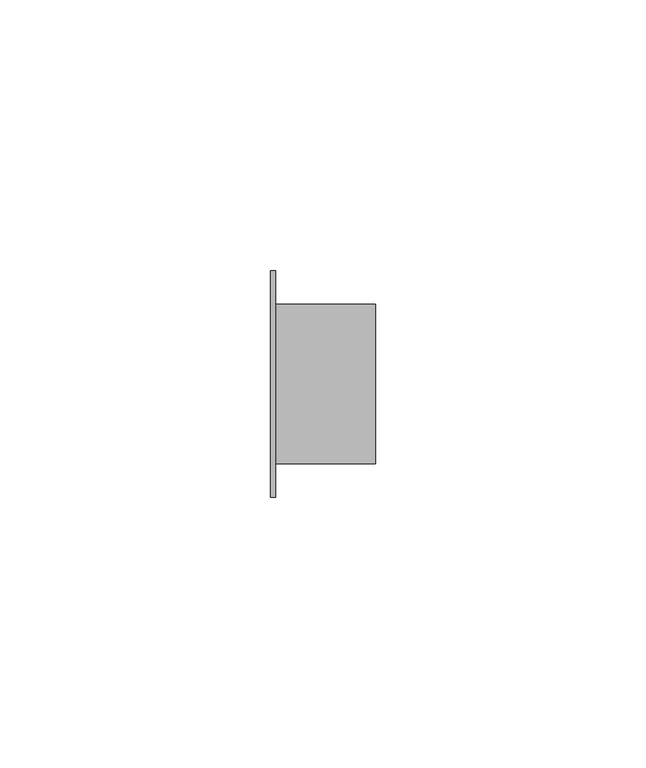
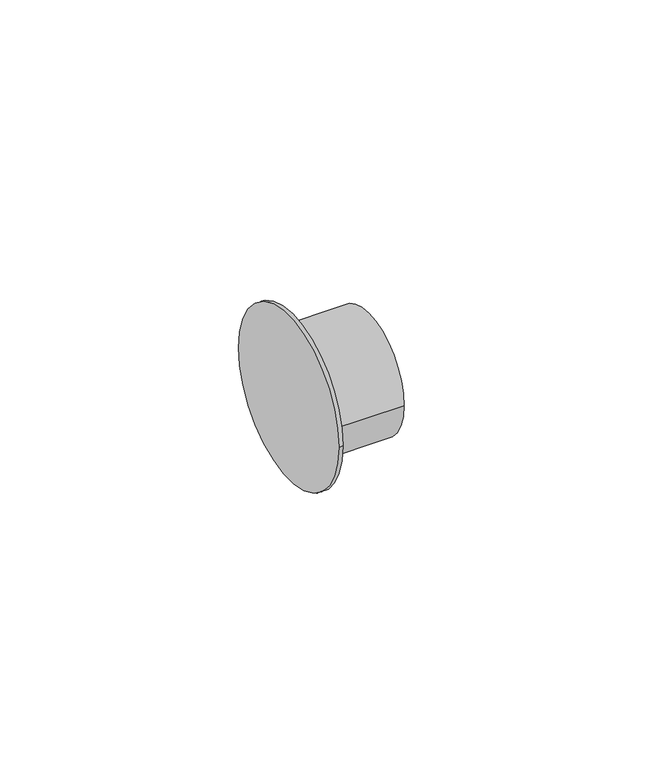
"""IFC4 building model written with IfcOpenShell, lengths in millimetres: pipe fitting geometry, Bucha de redução reta - Soldada - CU : Padrão."""

from ifc_helpers import new_model, si_unit, frame, origin, place, context, project, spatial, circle_curve, source, transform, mapped, element, save
from ifc_brep_helpers import plane_surface, cylinder_surface, advanced_brep


def pipe_fitting_ee637023(model_context):
    return source(origin(), model_context, "Body", "AdvancedBrep", [
        advanced_brep(
        [(0.0, -20.965, 0.0), (0.0, 20.965, 0.0), (1.0, -20.965, 0.0), (1.0, 20.965, 0.0), (1.0, -14.7, 0.0), (1.0, 14.7, 0.0), (19.4, -14.7, 0.0), (19.4, 14.7, 0.0)],
        [
            (0, 1, circle_curve(frame((0.0, 0.0, 0.0), z_axis=(-1.0, 0.0, 0.0), x_axis=(0.0, 1.0, 0.0)), 20.965)),
            (1, 0, circle_curve(frame((0.0, 0.0, 0.0), z_axis=(-1.0, 0.0, 0.0), x_axis=(0.0, 1.0, 0.0)), 20.965)),
            (2, 3, circle_curve(frame((1.0, 0.0, 0.0), z_axis=(1.0, 0.0, 0.0), x_axis=(0.0, 1.0, 0.0)), 20.965)),
            (3, 2, circle_curve(frame((1.0, 0.0, 0.0), z_axis=(1.0, 0.0, 0.0), x_axis=(0.0, 1.0, 0.0)), 20.965)),
            (4, 5, circle_curve(frame((1.0, 0.0, 0.0), z_axis=(-1.0, 0.0, 0.0), x_axis=(0.0, 1.0, 0.0)), 14.7)),
            (5, 4, circle_curve(frame((1.0, 0.0, 0.0), z_axis=(-1.0, 0.0, 0.0), x_axis=(0.0, 1.0, 0.0)), 14.7)),
            (0, 2),
            (3, 1),
            (6, 7, circle_curve(frame((19.4, 0.0, 0.0), z_axis=(1.0, 0.0, 0.0), x_axis=(0.0, 1.0, 0.0)), 14.7)),
            (7, 6, circle_curve(frame((19.4, 0.0, 0.0), z_axis=(1.0, 0.0, 0.0), x_axis=(0.0, 1.0, 0.0)), 14.7)),
            (7, 5),
            (4, 6),
        ],
        [
            plane_surface(frame((0.0, 0.0, 0.0), z_axis=(-1.0, 0.0, 0.0), x_axis=(0.0, 0.0, 1.0))),
            plane_surface(frame((1.0, 0.0, 0.0), z_axis=(1.0, 0.0, 0.0), x_axis=(0.0, 0.0, 1.0))),
            cylinder_surface(frame((0.0, 0.0, 0.0), z_axis=(-1.0, 0.0, 0.0), x_axis=(0.0, 1.0, 0.0)), 20.965),
            plane_surface(frame((19.4, 0.0, 0.0), z_axis=(1.0, 0.0, 0.0), x_axis=(0.0, 0.0, 1.0))),
            cylinder_surface(frame((1.0, 0.0, 0.0), z_axis=(-1.0, 0.0, 0.0), x_axis=(0.0, 1.0, 0.0)), 14.7),
        ],
        [
            (0, [[1, 2]]),
            (1, [[3, 4], [5, 6]]),
            (2, [[-1, 7, -4, 8]]),
            (2, [[-2, -8, -3, -7]]),
            (3, [[9, 10]]),
            (4, [[-10, 11, -5, 12]]),
            (4, [[-9, -12, -6, -11]]),
        ],
    ),
    ])


if __name__ == "__main__":
    model = new_model("IFC4")
    model_context = context("Model", 3, world=origin())
    ifc_project = project(units=[si_unit("LENGTHUNIT", "METRE", prefix="MILLI")], contexts=[model_context])
    site = spatial("IfcSite", under=ifc_project)
    building = spatial("IfcBuilding", under=site)
    placement = place(None, origin())
    pipe_fitting_shape = pipe_fitting_ee637023(model_context)
    element("IfcPipeFitting", 1, ObjectType="Bucha de redução reta - Soldada - CU : Padrão", at=placement, inside=building, context=model_context, shape_type="MappedRepresentation", body=[
        mapped(pipe_fitting_shape, transform((0.0, 0.0, 0.0), x_axis=(1.0, 0.0, 0.0), y_axis=(0.0, 1.0, 0.0), z_axis=(0.0, 0.0, 1.0))),
    ])
    save(model, "model.ifc")
